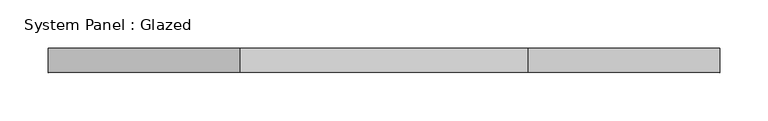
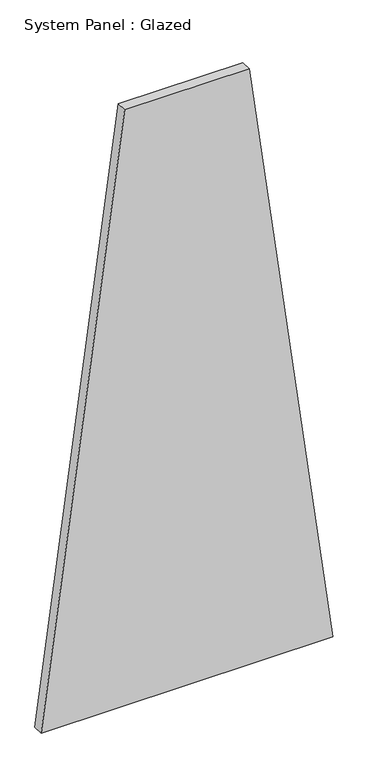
"""IFC4 building model written with IfcOpenShell, lengths in millimetres: plate geometry, System Panel : Glazed."""

from ifc_helpers import new_model, si_unit, frame, origin, place, context, project, spatial, polyline, outline, extrude, source, transform, mapped, element, save


def system_panel_glazed_06e87ee0(model_context):
    return source(origin(), model_context, "Body", "SweptSolid", [
        extrude(outline(polyline([(0.0, -349.8333926), (0.0, 349.8333926), (1510.7711024, 149.4670377), (1510.7711024, -149.4670377), (0.0, -349.8333926)])), frame((0.0, -44.45, 0.0), z_axis=(0.0, 1.0, 0.0), x_axis=(0.0, 0.0, 1.0)), (0.0, 0.0, 1.0), 25.4),
    ])


if __name__ == "__main__":
    model = new_model("IFC4")
    model_context = context("Model", 3, world=origin())
    ifc_project = project(units=[si_unit("LENGTHUNIT", "METRE", prefix="MILLI")], contexts=[model_context])
    site = spatial("IfcSite", under=ifc_project)
    building = spatial("IfcBuilding", under=site)
    placement = place(None, origin())
    system_panel_glazed_shape = system_panel_glazed_06e87ee0(model_context)
    element("IfcPlate", 1, ObjectType="System Panel : Glazed", at=placement, inside=building, context=model_context, shape_type="MappedRepresentation", body=[
        mapped(system_panel_glazed_shape, transform((0.0, 0.0, 0.0), x_axis=(1.0, 0.0, 0.0), y_axis=(0.0, 1.0, 0.0), z_axis=(0.0, 0.0, 1.0))),
    ])
    save(model, "model.ifc")
